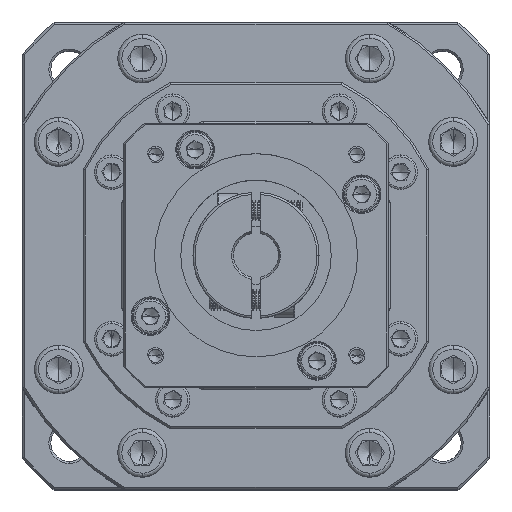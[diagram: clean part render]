
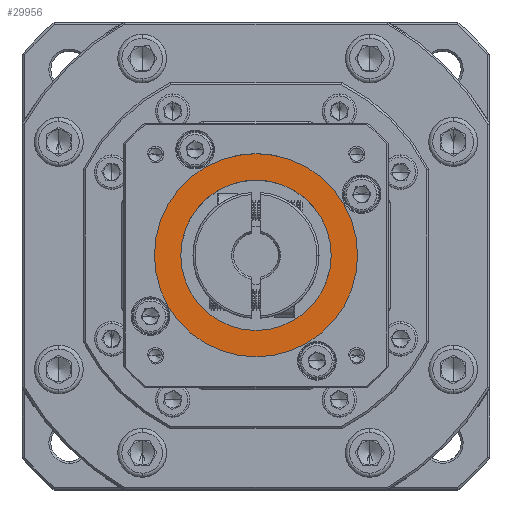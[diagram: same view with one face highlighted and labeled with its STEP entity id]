
A CAD part, top view. The second image highlights one B-rep face of the part: STEP entity #29956.
In plain terms, the highlighted planar face has unit normal (0, 0, 1).
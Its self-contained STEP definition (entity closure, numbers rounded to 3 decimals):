
#28 = AXIS2_PLACEMENT_3D ( 'NONE', #108547, #51348, #118132 ) ;
#2383 = ORIENTED_EDGE ( 'NONE', *, *, #85011, .T. ) ;
#6408 = DIRECTION ( 'NONE',  ( 0., 0., -1. ) ) ;
#6572 = DIRECTION ( 'NONE',  ( 0., 0., 1. ) ) ;
#12142 = CARTESIAN_POINT ( 'NONE',  ( 75.794, -36.165, -1.707 ) ) ;
#19036 = CARTESIAN_POINT ( 'NONE',  ( 57.294, -36.165, -1.707 ) ) ;
#27318 = CARTESIAN_POINT ( 'NONE',  ( 57.294, -36.165, -1.707 ) ) ;
#28085 = EDGE_LOOP ( 'NONE', ( #2383, #42867 ) ) ;
#28254 = EDGE_CURVE ( 'NONE', #52256, #86353, #122895, .T. ) ;
#28662 = DIRECTION ( 'NONE',  ( 1., 0., 0. ) ) ;
#29956 = ADVANCED_FACE ( 'NONE', ( #87923, #65657 ), #112828, .T. ) ;
#33221 = AXIS2_PLACEMENT_3D ( 'NONE', #63838, #6572, #73460 ) ;
#34542 = AXIS2_PLACEMENT_3D ( 'NONE', #19036, #85796, #28662 ) ;
#36903 = DIRECTION ( 'NONE',  ( 1., 0., 0. ) ) ;
#42867 = ORIENTED_EDGE ( 'NONE', *, *, #44395, .T. ) ;
#44086 = CIRCLE ( 'NONE', #47246, 18.5 ) ;
#44395 = EDGE_CURVE ( 'NONE', #58615, #59817, #89572, .T. ) ;
#47246 = AXIS2_PLACEMENT_3D ( 'NONE', #63679, #6408, #73291 ) ;
#51348 = DIRECTION ( 'NONE',  ( 0., 0., -1. ) ) ;
#52256 = VERTEX_POINT ( 'NONE', #12142 ) ;
#53381 = CIRCLE ( 'NONE', #34542, 25. ) ;
#53391 = EDGE_CURVE ( 'NONE', #86353, #52256, #44086, .T. ) ;
#53925 = ORIENTED_EDGE ( 'NONE', *, *, #53391, .T. ) ;
#58615 = VERTEX_POINT ( 'NONE', #71037 ) ;
#59817 = VERTEX_POINT ( 'NONE', #60125 ) ;
#60125 = CARTESIAN_POINT ( 'NONE',  ( 82.294, -36.165, -1.707 ) ) ;
#60216 = EDGE_LOOP ( 'NONE', ( #116192, #53925 ) ) ;
#63679 = CARTESIAN_POINT ( 'NONE',  ( 57.294, -36.165, -1.707 ) ) ;
#63838 = CARTESIAN_POINT ( 'NONE',  ( 57.294, -36.165, -1.707 ) ) ;
#65657 = FACE_BOUND ( 'NONE', #60216, .T. ) ;
#71037 = CARTESIAN_POINT ( 'NONE',  ( 32.294, -36.165, -1.707 ) ) ;
#73291 = DIRECTION ( 'NONE',  ( 1., 0., 0. ) ) ;
#73460 = DIRECTION ( 'NONE',  ( 1., 0., 0. ) ) ;
#85011 = EDGE_CURVE ( 'NONE', #59817, #58615, #53381, .T. ) ;
#85796 = DIRECTION ( 'NONE',  ( 0., 0., 1. ) ) ;
#86353 = VERTEX_POINT ( 'NONE', #111510 ) ;
#87393 = AXIS2_PLACEMENT_3D ( 'NONE', #27318, #94048, #36903 ) ;
#87923 = FACE_OUTER_BOUND ( 'NONE', #28085, .T. ) ;
#89572 = CIRCLE ( 'NONE', #33221, 25. ) ;
#94048 = DIRECTION ( 'NONE',  ( 0., 0., 1. ) ) ;
#108547 = CARTESIAN_POINT ( 'NONE',  ( 57.294, -36.165, -1.707 ) ) ;
#111510 = CARTESIAN_POINT ( 'NONE',  ( 38.794, -36.165, -1.707 ) ) ;
#112828 = PLANE ( 'NONE',  #87393 ) ;
#116192 = ORIENTED_EDGE ( 'NONE', *, *, #28254, .T. ) ;
#118132 = DIRECTION ( 'NONE',  ( 1., 0., 0. ) ) ;
#122895 = CIRCLE ( 'NONE', #28, 18.5 ) ;
